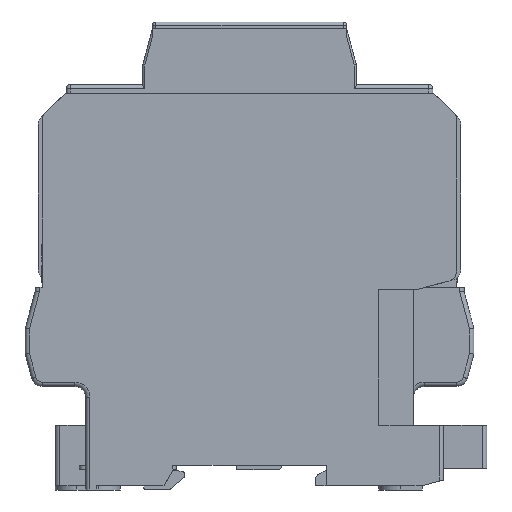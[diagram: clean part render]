
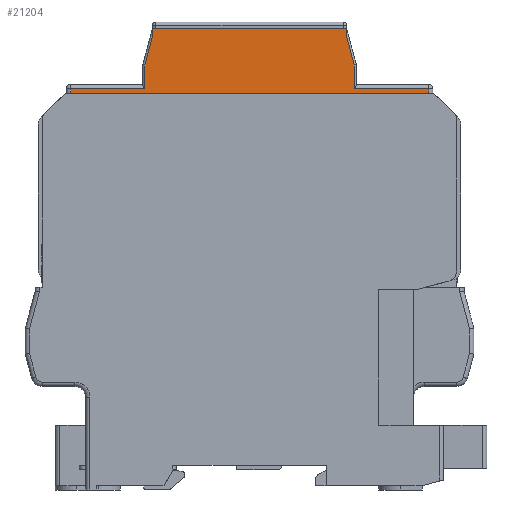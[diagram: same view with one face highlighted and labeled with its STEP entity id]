
A CAD part, left-side view. The second image highlights one B-rep face of the part: STEP entity #21204.
In plain terms, the highlighted planar face has unit normal (-1, 0, 0).
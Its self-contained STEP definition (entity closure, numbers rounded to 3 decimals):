
#528 = VERTEX_POINT ( 'NONE', #5226 ) ;
#974 = VECTOR ( 'NONE', #23461, 1000. ) ;
#1028 = EDGE_CURVE ( 'NONE', #30728, #16756, #7573, .T. ) ;
#1255 = VERTEX_POINT ( 'NONE', #28864 ) ;
#1256 = EDGE_CURVE ( 'NONE', #1915, #17366, #7077, .T. ) ;
#1300 = VECTOR ( 'NONE', #16858, 1000. ) ;
#1338 = VERTEX_POINT ( 'NONE', #2467 ) ;
#1915 = VERTEX_POINT ( 'NONE', #10032 ) ;
#2467 = CARTESIAN_POINT ( 'NONE',  ( 0.25, 30.75, 93. ) ) ;
#2552 = EDGE_CURVE ( 'NONE', #27710, #5502, #30958, .T. ) ;
#3043 = ORIENTED_EDGE ( 'NONE', *, *, #18781, .F. ) ;
#3092 = DIRECTION ( 'NONE',  ( 0., -1., 0. ) ) ;
#3122 = ORIENTED_EDGE ( 'NONE', *, *, #30109, .T. ) ;
#3794 = CARTESIAN_POINT ( 'NONE',  ( 0.25, 32.5, 105.068 ) ) ;
#3883 = VECTOR ( 'NONE', #30134, 1000. ) ;
#5144 = LINE ( 'NONE', #12313, #6384 ) ;
#5226 = CARTESIAN_POINT ( 'NONE',  ( 0.25, 13.5, 93. ) ) ;
#5460 = CARTESIAN_POINT ( 'NONE',  ( 0.25, 32.5, 107. ) ) ;
#5502 = VERTEX_POINT ( 'NONE', #14346 ) ;
#6384 = VECTOR ( 'NONE', #27246, 1000. ) ;
#6943 = DIRECTION ( 'NONE',  ( 0., 1., 0. ) ) ;
#7077 = LINE ( 'NONE', #13766, #974 ) ;
#7106 = ORIENTED_EDGE ( 'NONE', *, *, #8450, .F. ) ;
#7463 = VECTOR ( 'NONE', #14766, 1000. ) ;
#7573 = LINE ( 'NONE', #17292, #25794 ) ;
#8250 = VERTEX_POINT ( 'NONE', #14825 ) ;
#8450 = EDGE_CURVE ( 'NONE', #27710, #20492, #30403, .T. ) ;
#8578 = ORIENTED_EDGE ( 'NONE', *, *, #1028, .T. ) ;
#8935 = VECTOR ( 'NONE', #19633, 1000. ) ;
#8978 = LINE ( 'NONE', #30448, #3883 ) ;
#10032 = CARTESIAN_POINT ( 'NONE',  ( 0.25, 79.25, 98.537 ) ) ;
#10172 = EDGE_CURVE ( 'NONE', #17366, #5502, #29071, .T. ) ;
#10260 = CARTESIAN_POINT ( 'NONE',  ( 0.25, 77.5, 105.068 ) ) ;
#10591 = ORIENTED_EDGE ( 'NONE', *, *, #1256, .F. ) ;
#11177 = ORIENTED_EDGE ( 'NONE', *, *, #2552, .T. ) ;
#11284 = EDGE_CURVE ( 'NONE', #1915, #1255, #31475, .T. ) ;
#11305 = EDGE_CURVE ( 'NONE', #1255, #11840, #29399, .T. ) ;
#11840 = VERTEX_POINT ( 'NONE', #29995 ) ;
#12313 = CARTESIAN_POINT ( 'NONE',  ( 0.25, 96.5, 93. ) ) ;
#13532 = ORIENTED_EDGE ( 'NONE', *, *, #10172, .F. ) ;
#13738 = DIRECTION ( 'NONE',  ( 0., 1., 0. ) ) ;
#13766 = CARTESIAN_POINT ( 'NONE',  ( 0.25, 79.25, 98.537 ) ) ;
#14346 = CARTESIAN_POINT ( 'NONE',  ( 0.25, 77.5, 107. ) ) ;
#14393 = LINE ( 'NONE', #17403, #8935 ) ;
#14766 = DIRECTION ( 'NONE',  ( 0., 0., 1. ) ) ;
#14825 = CARTESIAN_POINT ( 'NONE',  ( 0.25, 30.75, 98.537 ) ) ;
#14929 = DIRECTION ( 'NONE',  ( 0., 0., -1. ) ) ;
#15500 = DIRECTION ( 'NONE',  ( -1., 0., 0. ) ) ;
#15536 = CARTESIAN_POINT ( 'NONE',  ( 0.25, 13.5, 92. ) ) ;
#15823 = EDGE_CURVE ( 'NONE', #528, #1338, #23119, .T. ) ;
#16705 = CARTESIAN_POINT ( 'NONE',  ( 0.25, 79.25, 98.537 ) ) ;
#16756 = VERTEX_POINT ( 'NONE', #23828 ) ;
#16787 = FACE_OUTER_BOUND ( 'NONE', #24781, .T. ) ;
#16858 = DIRECTION ( 'NONE',  ( 0., 1., 0. ) ) ;
#17292 = CARTESIAN_POINT ( 'NONE',  ( 0.25, 97.75, 92. ) ) ;
#17366 = VERTEX_POINT ( 'NONE', #10260 ) ;
#17403 = CARTESIAN_POINT ( 'NONE',  ( 0.25, 30.75, 93. ) ) ;
#17702 = VECTOR ( 'NONE', #14929, 1000. ) ;
#17750 = ORIENTED_EDGE ( 'NONE', *, *, #21081, .T. ) ;
#18781 = EDGE_CURVE ( 'NONE', #20492, #8250, #8978, .T. ) ;
#18799 = ORIENTED_EDGE ( 'NONE', *, *, #15823, .T. ) ;
#18937 = ORIENTED_EDGE ( 'NONE', *, *, #25783, .T. ) ;
#19062 = CARTESIAN_POINT ( 'NONE',  ( 0.25, 77.5, 101.2 ) ) ;
#19390 = CARTESIAN_POINT ( 'NONE',  ( 0.25, 79.25, 93. ) ) ;
#19633 = DIRECTION ( 'NONE',  ( 0., 0., 1. ) ) ;
#20074 = VECTOR ( 'NONE', #28748, 1000. ) ;
#20250 = VECTOR ( 'NONE', #25379, 1000. ) ;
#20492 = VERTEX_POINT ( 'NONE', #3794 ) ;
#21081 = EDGE_CURVE ( 'NONE', #1338, #8250, #14393, .T. ) ;
#21204 = ADVANCED_FACE ( 'NONE', ( #16787 ), #26468, .T. ) ;
#22332 = CARTESIAN_POINT ( 'NONE',  ( 0.25, 97.5, 92. ) ) ;
#23119 = LINE ( 'NONE', #30437, #24408 ) ;
#23302 = ORIENTED_EDGE ( 'NONE', *, *, #11305, .T. ) ;
#23461 = DIRECTION ( 'NONE',  ( 0., -0.259, 0.966 ) ) ;
#23828 = CARTESIAN_POINT ( 'NONE',  ( 0.25, 13.5, 92. ) ) ;
#24408 = VECTOR ( 'NONE', #13738, 1000. ) ;
#24781 = EDGE_LOOP ( 'NONE', ( #3043, #7106, #11177, #13532, #10591, #30489, #23302, #3122, #8578, #18937, #18799, #17750 ) ) ;
#25379 = DIRECTION ( 'NONE',  ( 0., 0., 1. ) ) ;
#25783 = EDGE_CURVE ( 'NONE', #16756, #528, #29838, .T. ) ;
#25794 = VECTOR ( 'NONE', #26973, 1000. ) ;
#26365 = VECTOR ( 'NONE', #6943, 1000. ) ;
#26468 = PLANE ( 'NONE',  #31270 ) ;
#26973 = DIRECTION ( 'NONE',  ( 0., -1., 0. ) ) ;
#27246 = DIRECTION ( 'NONE',  ( 0., 0., -1. ) ) ;
#27710 = VERTEX_POINT ( 'NONE', #5460 ) ;
#28716 = CARTESIAN_POINT ( 'NONE',  ( 0.25, 33.018, 107. ) ) ;
#28748 = DIRECTION ( 'NONE',  ( 0., 0., -1. ) ) ;
#28778 = CARTESIAN_POINT ( 'NONE',  ( 0.25, 96.5, 92. ) ) ;
#28864 = CARTESIAN_POINT ( 'NONE',  ( 0.25, 79.25, 93. ) ) ;
#28910 = CARTESIAN_POINT ( 'NONE',  ( 0.25, 32.5, 107. ) ) ;
#29071 = LINE ( 'NONE', #19062, #7463 ) ;
#29399 = LINE ( 'NONE', #19390, #1300 ) ;
#29838 = LINE ( 'NONE', #15536, #20250 ) ;
#29995 = CARTESIAN_POINT ( 'NONE',  ( 0.25, 96.5, 93. ) ) ;
#30109 = EDGE_CURVE ( 'NONE', #11840, #30728, #5144, .T. ) ;
#30134 = DIRECTION ( 'NONE',  ( 0., -0.259, -0.966 ) ) ;
#30403 = LINE ( 'NONE', #28910, #20074 ) ;
#30437 = CARTESIAN_POINT ( 'NONE',  ( 0.25, 13.5, 93. ) ) ;
#30448 = CARTESIAN_POINT ( 'NONE',  ( 0.25, 33.018, 107. ) ) ;
#30489 = ORIENTED_EDGE ( 'NONE', *, *, #11284, .T. ) ;
#30728 = VERTEX_POINT ( 'NONE', #28778 ) ;
#30958 = LINE ( 'NONE', #28716, #26365 ) ;
#31270 = AXIS2_PLACEMENT_3D ( 'NONE', #22332, #15500, #3092 ) ;
#31475 = LINE ( 'NONE', #16705, #17702 ) ;
